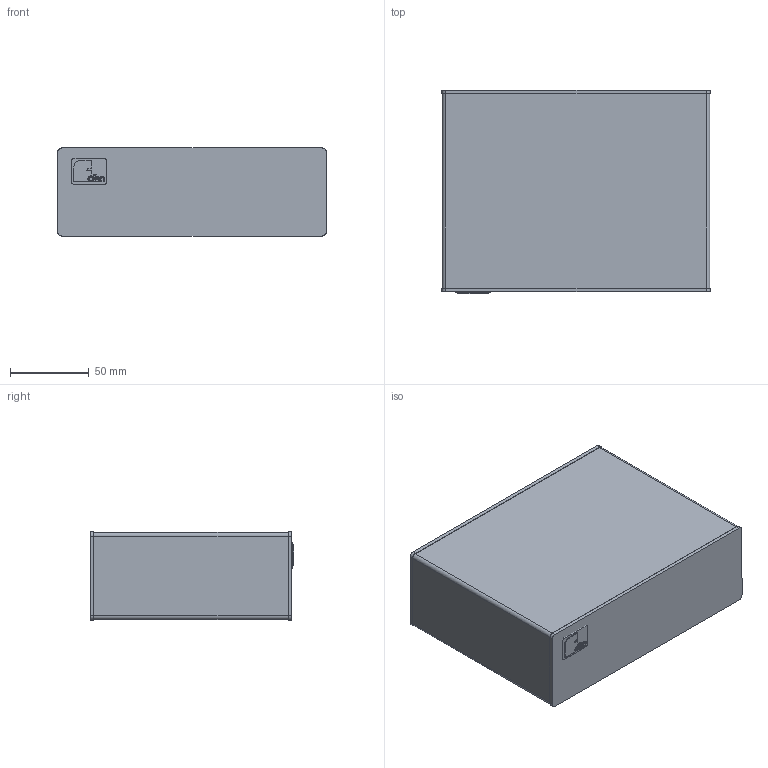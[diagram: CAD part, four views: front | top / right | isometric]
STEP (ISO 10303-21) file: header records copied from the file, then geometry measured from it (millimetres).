
FILE_DESCRIPTION(/* description */ (''),/* implementation_level */ '2;1');
FILE_NAME(/* name */ 'AAX-23~2',/* time_stamp */ '2019-03-08T11:15:38+01:00',/* author */ (''),/* organization */ (''),/* preprocessor_version */ 'ST-DEVELOPER v16.5',/* originating_system */ '',/* authorisation */ '');
FILE_SCHEMA (('AUTOMOTIVE_DESIGN'));
Length unit declared in the file: millimetre
Products named in the file (1): Document
Bounding box: 170 x 128.67 x 55.74 mm (x, y, z)
Surface area: 114470.1 mm2 (no closed solid volume)
Topology: 0 solids, 77 shells, 78 faces, 368 edges, 366 vertices
Faces by surface type: bspline 62, plane 16
Entity records: 4490 total; most frequent: CARTESIAN_POINT 2678, ORIENTED_EDGE 370, EDGE_CURVE 368, VERTEX_POINT 366, B_SPLINE_CURVE_WITH_KNOTS 150, EDGE_LOOP 80, ADVANCED_FACE 78, FACE_OUTER_BOUND 78
